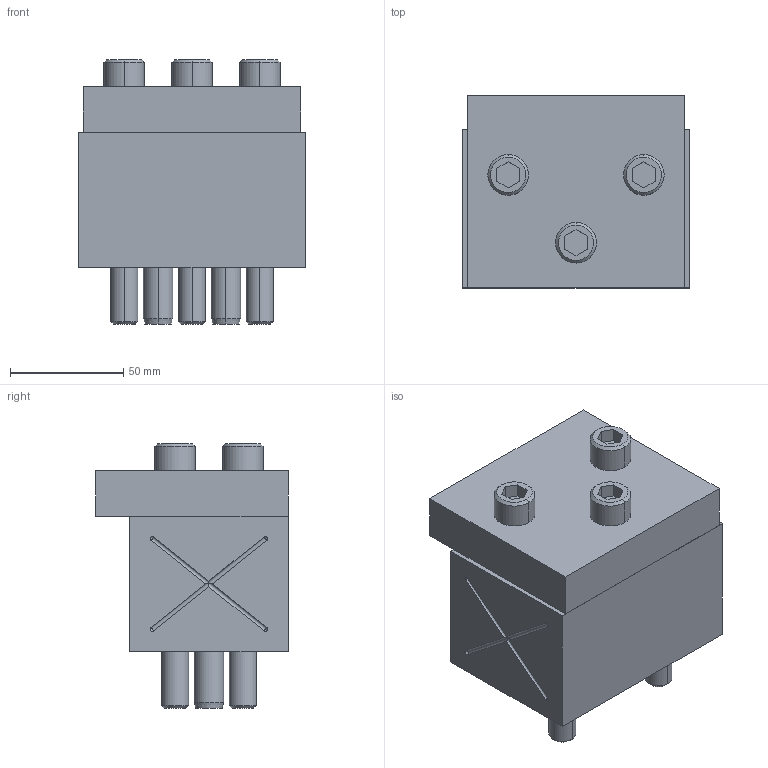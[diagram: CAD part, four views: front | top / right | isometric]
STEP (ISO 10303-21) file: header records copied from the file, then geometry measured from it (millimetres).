
FILE_DESCRIPTION((''),'2;1');
FILE_NAME('','2010-09-29T17:40:46+09:00',('misumi'),(''),'M/STEP i/f 1R2-14','CADmeister v5.1','');
FILE_SCHEMA(('AUTOMOTIVE_DESIGN'));
Length unit declared in the file: millimetre
Products named in the file (1): KEPNZ100-60-20
Bounding box: 100 x 85 x 117 mm (x, y, z)
Volume: 566725.7 mm3; surface area: 101011.7 mm2
Topology: 10 solids, 10 shells, 206 faces, 472 edges, 299 vertices
Faces by surface type: plane 86, cylinder 76, cone 32, revolution 12
Entity records: 8698 total; most frequent: CARTESIAN_POINT 1080, DIRECTION 1060, ORIENTED_EDGE 920, COLOUR_RGB 628, CURVE_STYLE 547, PRESENTATION_STYLE_ASSIGNMENT 537, OVER_RIDING_STYLED_ITEM 527, EDGE_CURVE 460
